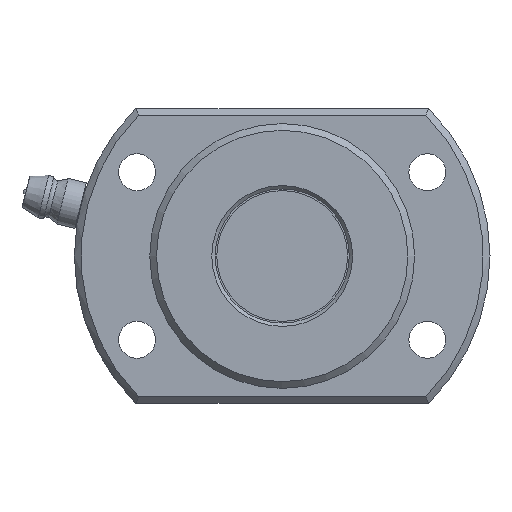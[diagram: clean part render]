
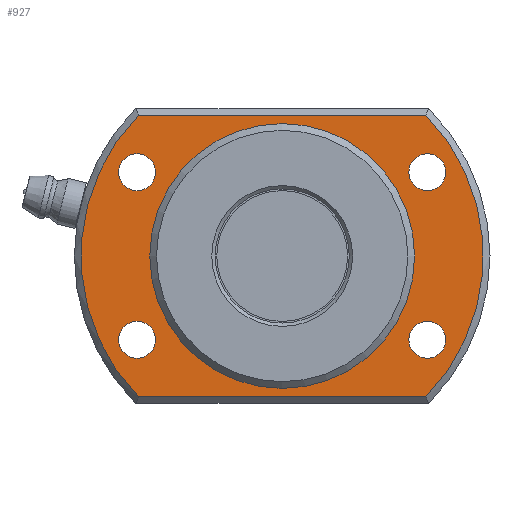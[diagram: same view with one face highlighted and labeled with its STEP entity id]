
A CAD part, left-side view. The second image highlights one B-rep face of the part: STEP entity #927.
In plain terms, the highlighted planar face has unit normal (-1, 0, 0).
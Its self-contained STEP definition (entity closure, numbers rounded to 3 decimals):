
#734=CARTESIAN_POINT('',(492.218,21.424,-21.));
#735=VERTEX_POINT('',#734);
#736=CARTESIAN_POINT('',(492.218,21.424,21.0));
#737=VERTEX_POINT('',#736);
#738=CARTESIAN_POINT('',(492.218,0.0,0.0));
#739=DIRECTION('',(1.0,0.0,0.0));
#740=DIRECTION('',(0.0,1.0,0.0));
#741=AXIS2_PLACEMENT_3D('',#738,#739,#740);
#742=CIRCLE('',#741,30.0);
#743=EDGE_CURVE('',#735,#737,#742,.T.);
#776=CARTESIAN_POINT('',(492.218,-21.424,-21.0));
#777=VERTEX_POINT('',#776);
#785=CARTESIAN_POINT('',(492.218,-21.424,-21.0));
#786=DIRECTION('',(0.0,1.0,0.0));
#787=VECTOR('',#786,42.849);
#788=LINE('',#785,#787);
#789=EDGE_CURVE('',#777,#735,#788,.T.);
#800=CARTESIAN_POINT('',(492.218,-21.424,21.));
#801=VERTEX_POINT('',#800);
#802=CARTESIAN_POINT('',(492.218,0.0,0.0));
#803=DIRECTION('',(1.0,0.0,0.0));
#804=DIRECTION('',(0.0,-1.0,0.0));
#805=AXIS2_PLACEMENT_3D('',#802,#803,#804);
#806=CIRCLE('',#805,30.0);
#807=EDGE_CURVE('',#801,#777,#806,.T.);
#834=CARTESIAN_POINT('',(492.218,21.424,21.0));
#835=DIRECTION('',(0.0,-1.0,0.0));
#836=VECTOR('',#835,42.849);
#837=LINE('',#834,#836);
#838=EDGE_CURVE('',#737,#801,#837,.T.);
#861=CARTESIAN_POINT('',(492.218,25.5,0.0));
#862=DIRECTION('',(-1.0,0.0,0.0));
#863=DIRECTION('',(0.0,0.0,1.0));
#864=AXIS2_PLACEMENT_3D('',#861,#862,#863);
#865=PLANE('',#864);
#866=ORIENTED_EDGE('',*,*,#743,.F.);
#867=ORIENTED_EDGE('',*,*,#789,.F.);
#868=ORIENTED_EDGE('',*,*,#807,.F.);
#869=ORIENTED_EDGE('',*,*,#838,.F.);
#870=EDGE_LOOP('',(#866,#867,#868,#869));
#871=FACE_OUTER_BOUND('',#870,.T.);
#872=CARTESIAN_POINT('',(492.218,19.75,0.0));
#873=VERTEX_POINT('',#872);
#874=CARTESIAN_POINT('',(492.218,0.0,0.0));
#875=DIRECTION('',(1.0,0.0,0.0));
#876=DIRECTION('',(0.0,1.0,0.0));
#877=AXIS2_PLACEMENT_3D('',#874,#875,#876);
#878=CIRCLE('',#877,19.75);
#879=EDGE_CURVE('',#873,#873,#878,.T.);
#880=ORIENTED_EDGE('',*,*,#879,.T.);
#881=EDGE_LOOP('',(#880));
#882=FACE_BOUND('',#881,.T.);
#883=CARTESIAN_POINT('',(492.218,-21.651,15.25));
#884=VERTEX_POINT('',#883);
#885=CARTESIAN_POINT('',(492.218,-21.651,12.5));
#886=DIRECTION('',(1.0,0.0,0.0));
#887=DIRECTION('',(0.0,0.0,1.0));
#888=AXIS2_PLACEMENT_3D('',#885,#886,#887);
#889=CIRCLE('',#888,2.75);
#890=EDGE_CURVE('',#884,#884,#889,.T.);
#891=ORIENTED_EDGE('',*,*,#890,.T.);
#892=EDGE_LOOP('',(#891));
#893=FACE_BOUND('',#892,.T.);
#894=CARTESIAN_POINT('',(492.218,21.651,-9.75));
#895=VERTEX_POINT('',#894);
#896=CARTESIAN_POINT('',(492.218,21.651,-12.5));
#897=DIRECTION('',(1.0,0.0,0.0));
#898=DIRECTION('',(0.0,0.0,1.0));
#899=AXIS2_PLACEMENT_3D('',#896,#897,#898);
#900=CIRCLE('',#899,2.75);
#901=EDGE_CURVE('',#895,#895,#900,.T.);
#902=ORIENTED_EDGE('',*,*,#901,.T.);
#903=EDGE_LOOP('',(#902));
#904=FACE_BOUND('',#903,.T.);
#905=CARTESIAN_POINT('',(492.218,21.651,15.25));
#906=VERTEX_POINT('',#905);
#907=CARTESIAN_POINT('',(492.218,21.651,12.5));
#908=DIRECTION('',(1.0,0.0,0.0));
#909=DIRECTION('',(0.0,0.0,1.0));
#910=AXIS2_PLACEMENT_3D('',#907,#908,#909);
#911=CIRCLE('',#910,2.75);
#912=EDGE_CURVE('',#906,#906,#911,.T.);
#913=ORIENTED_EDGE('',*,*,#912,.T.);
#914=EDGE_LOOP('',(#913));
#915=FACE_BOUND('',#914,.T.);
#916=CARTESIAN_POINT('',(492.218,-21.651,-9.75));
#917=VERTEX_POINT('',#916);
#918=CARTESIAN_POINT('',(492.218,-21.651,-12.5));
#919=DIRECTION('',(1.0,0.0,0.0));
#920=DIRECTION('',(0.0,0.0,1.0));
#921=AXIS2_PLACEMENT_3D('',#918,#919,#920);
#922=CIRCLE('',#921,2.75);
#923=EDGE_CURVE('',#917,#917,#922,.T.);
#924=ORIENTED_EDGE('',*,*,#923,.T.);
#925=EDGE_LOOP('',(#924));
#926=FACE_BOUND('',#925,.T.);
#927=ADVANCED_FACE('',(#871,#882,#893,#904,#915,#926),#865,.T.);
